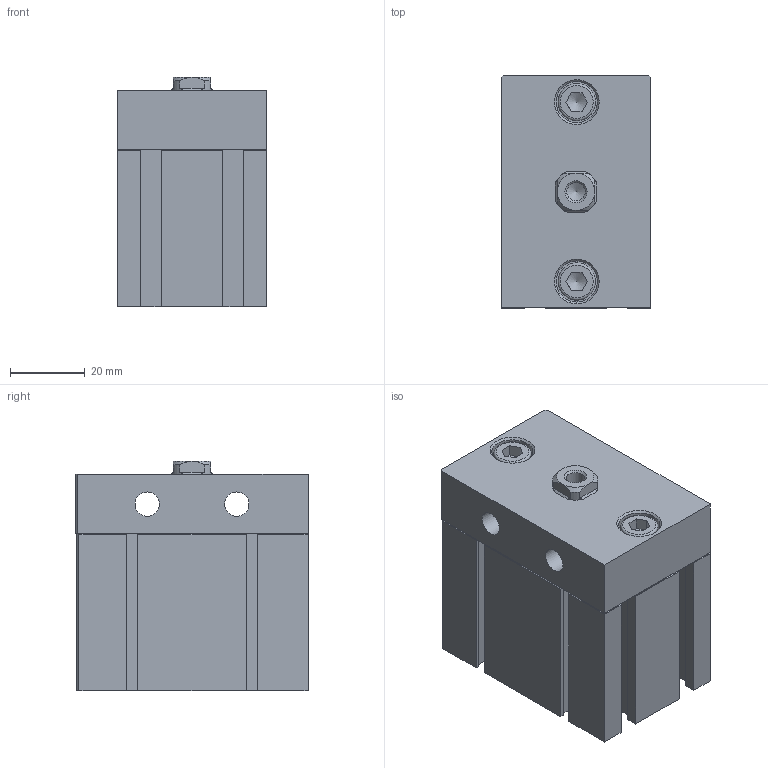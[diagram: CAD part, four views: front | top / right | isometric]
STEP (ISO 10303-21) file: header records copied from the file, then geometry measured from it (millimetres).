
FILE_DESCRIPTION((''),'2;1');
FILE_NAME('I:\3D電子目錄\氣缸\ND\ND\ND32\ND32x10.stp','2007-07-30T20:17:46',('Administrator'),(''),'Autodesk Inventor 11','Autodesk Inventor 11','');
FILE_SCHEMA(('AUTOMOTIVE_DESIGN { 1 0 10303 214 1 1 1 1 }'));
Length unit declared in the file: millimetre
Products named in the file (4): ND32; R 形環 34; ISO 4762 M6 x 16
Assembly tree (4 placements, depth 2):
  ND32
    ND32
    R 形環 34
    ISO 4762 M6 x 16  x2
Bounding box: 40 x 62.1 x 61.5 mm (x, y, z)
Volume: 126318.4 mm3; surface area: 28608.6 mm2
Topology: 5 solids, 5 shells, 195 faces, 467 edges, 297 vertices
Faces by surface type: plane 133, cylinder 25, cone 18, bspline 16, torus 3
Full cylindrical faces by diameter (mm): 1.9 x2, 2.2 x2, 6 x2, 6.5 x2, 10 x2, 11 x2, 23 x1, 34 x1, 36 x1
Entity records: 5217 total; most frequent: CARTESIAN_POINT 1095, DIRECTION 812, ORIENTED_EDGE 782, EDGE_CURVE 391, VECTOR 288, LINE 288, VERTEX_POINT 271, AXIS2_PLACEMENT_3D 262
